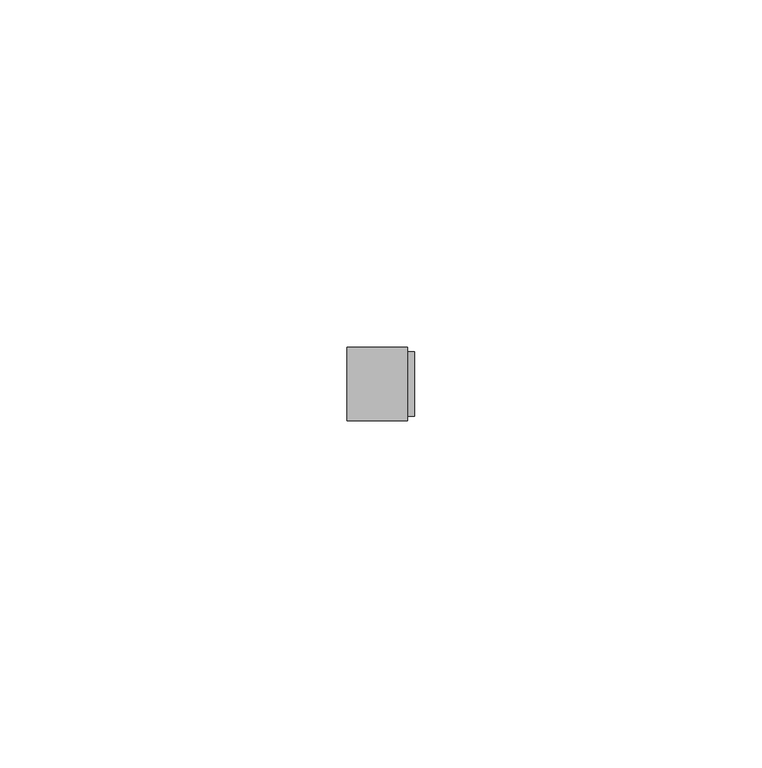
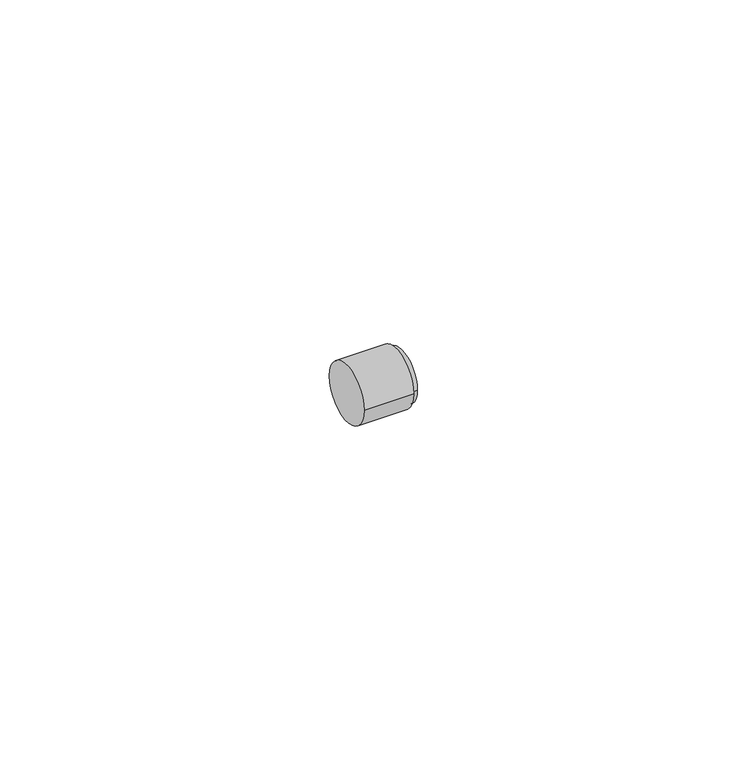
"""IFC4 building model written with IfcOpenShell, lengths in millimetres: pipe fitting geometry, Bucha de redução reta - Soldada - CU : Padrão."""

from ifc_helpers import new_model, si_unit, frame, origin, place, context, project, spatial, circle_curve, source, transform, mapped, element, save
from ifc_brep_helpers import plane_surface, cylinder_surface, advanced_brep


def pipe_fitting_58ab9b66(model_context):
    return source(origin(), model_context, "Body", "AdvancedBrep", [
        advanced_brep(
        [(0.0, -5.2552, 0.0), (0.0, 5.2552, 0.0), (8.6744, -5.2552, 0.0), (8.6744, 5.2552, 0.0), (8.6744, -4.665, 0.0), (8.6744, 4.665, 0.0), (9.6744, -4.665, 0.0), (9.6744, 4.665, 0.0)],
        [
            (0, 1, circle_curve(frame((0.0, 0.0, 0.0), z_axis=(-1.0, 0.0, 0.0), x_axis=(0.0, 1.0, 0.0)), 5.2552)),
            (1, 0, circle_curve(frame((0.0, 0.0, 0.0), z_axis=(-1.0, 0.0, 0.0), x_axis=(0.0, 1.0, 0.0)), 5.2552)),
            (2, 3, circle_curve(frame((8.6744, 0.0, 0.0), z_axis=(1.0, 0.0, 0.0), x_axis=(0.0, 1.0, 0.0)), 5.2552)),
            (3, 2, circle_curve(frame((8.6744, 0.0, 0.0), z_axis=(1.0, 0.0, 0.0), x_axis=(0.0, 1.0, 0.0)), 5.2552)),
            (4, 5, circle_curve(frame((8.6744, 0.0, 0.0), z_axis=(-1.0, 0.0, 0.0), x_axis=(0.0, 1.0, 0.0)), 4.665)),
            (5, 4, circle_curve(frame((8.6744, 0.0, 0.0), z_axis=(-1.0, 0.0, 0.0), x_axis=(0.0, 1.0, 0.0)), 4.665)),
            (0, 2),
            (3, 1),
            (6, 7, circle_curve(frame((9.6744, 0.0, 0.0), z_axis=(1.0, 0.0, 0.0), x_axis=(0.0, 1.0, 0.0)), 4.665)),
            (7, 6, circle_curve(frame((9.6744, 0.0, 0.0), z_axis=(1.0, 0.0, 0.0), x_axis=(0.0, 1.0, 0.0)), 4.665)),
            (7, 5),
            (4, 6),
        ],
        [
            plane_surface(frame((0.0, 0.0, 0.0), z_axis=(-1.0, 0.0, 0.0), x_axis=(0.0, 0.0, 1.0))),
            plane_surface(frame((8.6744, 0.0, 0.0), z_axis=(1.0, 0.0, 0.0), x_axis=(0.0, 0.0, 1.0))),
            cylinder_surface(frame((0.0, 0.0, 0.0), z_axis=(-1.0, 0.0, 0.0), x_axis=(0.0, 1.0, 0.0)), 5.2552),
            plane_surface(frame((9.6744, 0.0, 0.0), z_axis=(1.0, 0.0, 0.0), x_axis=(0.0, 0.0, 1.0))),
            cylinder_surface(frame((8.6744, 0.0, 0.0), z_axis=(-1.0, 0.0, 0.0), x_axis=(0.0, 1.0, 0.0)), 4.665),
        ],
        [
            (0, [[1, 2]]),
            (1, [[3, 4], [5, 6]]),
            (2, [[-1, 7, -4, 8]]),
            (2, [[-2, -8, -3, -7]]),
            (3, [[9, 10]]),
            (4, [[-10, 11, -5, 12]]),
            (4, [[-9, -12, -6, -11]]),
        ],
    ),
    ])


if __name__ == "__main__":
    model = new_model("IFC4")
    model_context = context("Model", 3, world=origin())
    ifc_project = project(units=[si_unit("LENGTHUNIT", "METRE", prefix="MILLI")], contexts=[model_context])
    site = spatial("IfcSite", under=ifc_project)
    building = spatial("IfcBuilding", under=site)
    placement = place(None, origin())
    pipe_fitting_shape = pipe_fitting_58ab9b66(model_context)
    element("IfcPipeFitting", 1, ObjectType="Bucha de redução reta - Soldada - CU : Padrão", at=placement, inside=building, context=model_context, shape_type="MappedRepresentation", body=[
        mapped(pipe_fitting_shape, transform((0.0, 0.0, 0.0), x_axis=(1.0, 0.0, 0.0), y_axis=(0.0, 1.0, 0.0), z_axis=(0.0, 0.0, 1.0))),
    ])
    save(model, "model.ifc")
